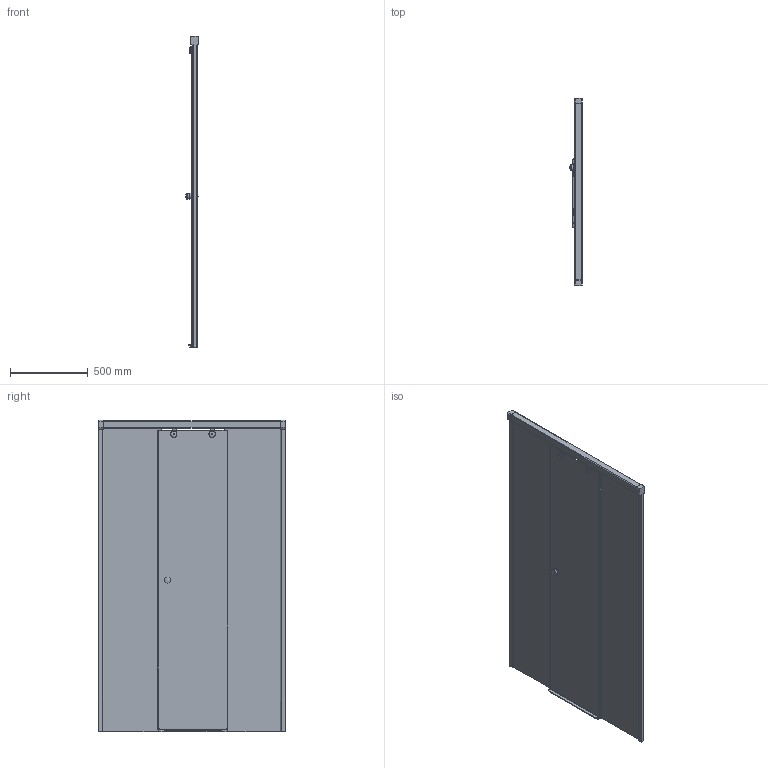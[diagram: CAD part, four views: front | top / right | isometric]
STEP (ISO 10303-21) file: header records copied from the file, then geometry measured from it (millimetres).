
FILE_DESCRIPTION(/* description */ (''),/* implementation_level */ '2;1');
FILE_NAME(/* name */ 'D:\4\10\SLIDE DOOR GK-863\SLIDE DOOR GK-863 левая модель\SLIDE DOOR GK-863 ЛЕВАЯ-3D.stp',/* time_stamp */ '2017-10-27T13:39:05+03:00',/* author */ ('ChechurovS'),/* organization */ (''),/* preprocessor_version */ 'ST-DEVELOPER v15.2',/* originating_system */ 'Autodesk Inventor 2014',/* authorisation */ '');
FILE_SCHEMA (('CONFIG_CONTROL_DESIGN'));
Length unit declared in the file: millimetre
Products named in the file (1): SLIDE DOOR GK-863 ЛЕВАЯ-3D
Bounding box: 81.5 x 1200 x 2001.5 mm (x, y, z)
Volume: 22700114.1 mm3; surface area: 5531536.1 mm2
Topology: 4 solids, 8 shells, 567 faces, 1566 edges, 1015 vertices
Faces by surface type: plane 370, cylinder 157, torus 26, bspline 12, sphere 2
Full cylindrical faces by diameter (mm): 37 x4, 38 x4, 42 x4
Entity records: 19111 total; most frequent: CARTESIAN_POINT 4008, ORIENTED_EDGE 3084, DIRECTION 2943, EDGE_CURVE 1540, LINE 1117, VECTOR 1117, VERTEX_POINT 1009, AXIS2_PLACEMENT_3D 913
